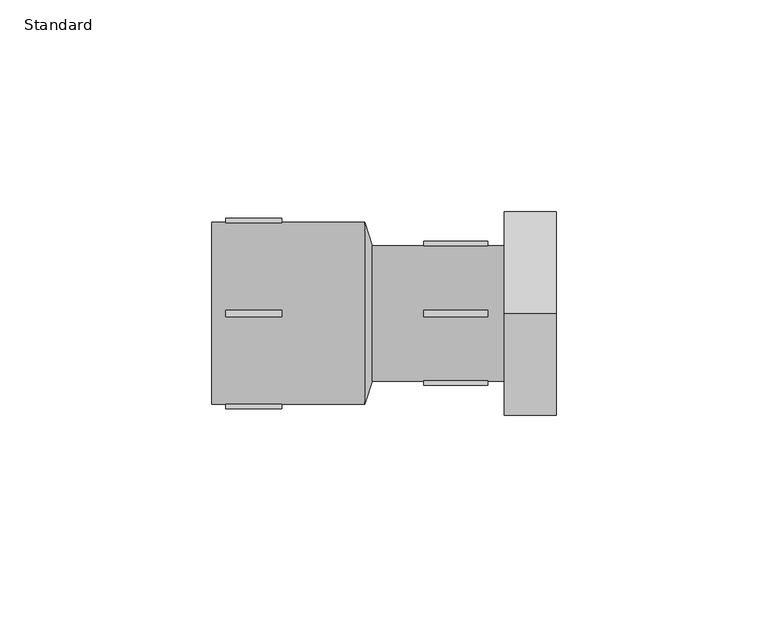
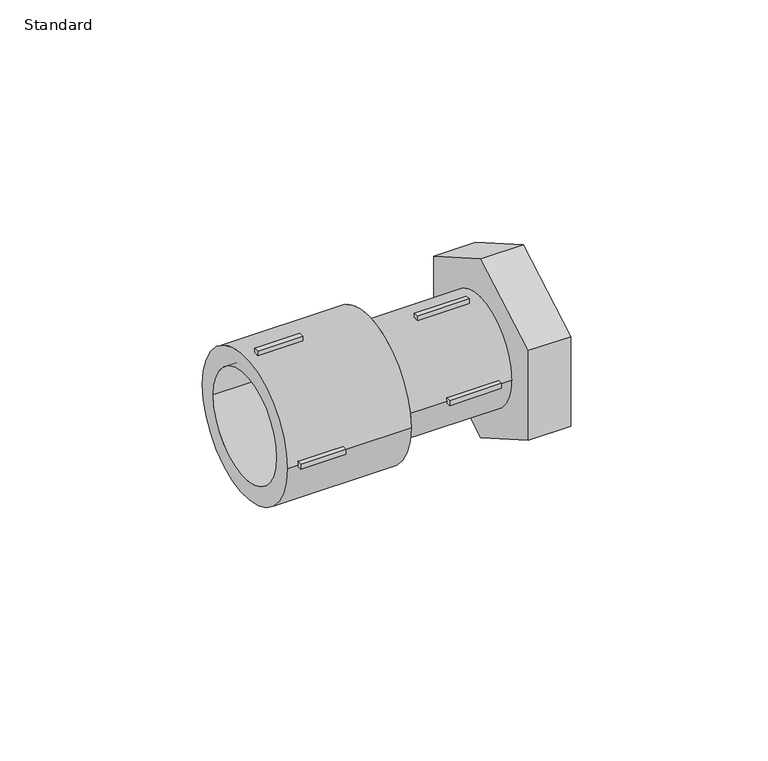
"""IFC4 building model written with IfcOpenShell, lengths in millimetres: pipe fitting geometry, EGB_VASEN_ PPR_Enlace tuerca loca : Standard."""

from ifc_helpers import new_model, si_unit, point, frame, origin, origin_2d, place, context, project, spatial, polyline, circle_curve, trimmed, segment, composite_curve, outline, extrude, source, transform, mapped, element, save
from ifc_brep_helpers import plane_surface, revolved_surface, advanced_brep


def standard_501e44f8(model_context):
    return source(origin(), model_context, "Body", "SolidModel", [
        extrude(outline(polyline([(0.0, 27.7128129), (24.0, 13.8564065), (24.0, -13.8564065), (0.0, -27.7128129), (-24.0, -13.8564065), (-24.0, 13.8564065), (0.0, 27.7128129)]), holes=[composite_curve([segment(trimmed(circle_curve(origin_2d(), 12.7), [point((12.7, 0.0))], [point((-12.7, 0.0))], True, "CARTESIAN"), True, "CONTINUOUS"), segment(trimmed(circle_curve(origin_2d(), 12.7), [point((-12.7, 0.0))], [point((12.7, 0.0))], True, "CARTESIAN"), True, "CONTINUOUS")], self_intersect=False)]), frame((32.0, 0.0, 0.0), z_axis=(1.0, 0.0, 0.0), x_axis=(0.0, 1.0, 0.0)), (0.0, 0.0, 1.0), 12.3333333),
        extrude(outline(polyline([(13.0, -0.75), (13.0, 0.75), (28.2, 0.75), (28.2, -0.75), (13.0, -0.75)])), frame((0.0, 0.0, 15.0), z_axis=(0.0, 0.0, 1.0), x_axis=(1.0, 0.0, 0.0)), (0.0, 0.0, 1.0), 2.0),
        extrude(outline(polyline([(13.0, -0.75), (13.0, 0.75), (28.2, 0.75), (28.2, -0.75), (13.0, -0.75)])), frame((0.0, 0.0, -17.0), z_axis=(0.0, 0.0, 1.0), x_axis=(1.0, 0.0, 0.0)), (0.0, 0.0, 1.0), 2.0),
        extrude(outline(polyline([(13.0, 15.0), (13.0, 17.0), (28.2, 17.0), (28.2, 15.0), (13.0, 15.0)])), frame((0.0, 0.0, -0.75), z_axis=(0.0, 0.0, 1.0), x_axis=(1.0, 0.0, 0.0)), (0.0, 0.0, 1.0), 1.5),
        extrude(outline(polyline([(13.0, -17.0), (13.0, -15.0), (28.2, -15.0), (28.2, -17.0), (13.0, -17.0)])), frame((0.0, 0.0, -0.75), z_axis=(0.0, 0.0, 1.0), x_axis=(1.0, 0.0, 0.0)), (0.0, 0.0, 1.0), 1.5),
        extrude(outline(polyline([(-20.5, 0.75), (-20.5, -0.75), (-33.7, -0.75), (-33.7, 0.75), (-20.5, 0.75)])), frame((0.0, 0.0, 20.5), z_axis=(0.0, 0.0, 1.0), x_axis=(1.0, 0.0, 0.0)), (0.0, 0.0, 1.0), 2.0),
        extrude(outline(polyline([(-20.5, 0.75), (-20.5, -0.75), (-33.7, -0.75), (-33.7, 0.75), (-20.5, 0.75)])), frame((0.0, 0.0, -22.5), z_axis=(0.0, 0.0, 1.0), x_axis=(1.0, 0.0, 0.0)), (0.0, 0.0, 1.0), 2.0),
        extrude(outline(polyline([(-20.5, 22.5), (-20.5, 20.5), (-33.7, 20.5), (-33.7, 22.5), (-20.5, 22.5)])), frame((0.0, 0.0, -0.75), z_axis=(0.0, 0.0, 1.0), x_axis=(1.0, 0.0, 0.0)), (0.0, 0.0, 1.0), 1.5),
        extrude(outline(polyline([(-20.5, -20.5), (-20.5, -22.5), (-33.7, -22.5), (-33.7, -20.5), (-20.5, -20.5)])), frame((0.0, 0.0, -0.75), z_axis=(0.0, 0.0, 1.0), x_axis=(1.0, 0.0, 0.0)), (0.0, 0.0, 1.0), 1.5),
        extrude(outline(composite_curve([segment(trimmed(circle_curve(origin_2d(), 16.0), [point((-16.0, 0.0))], [point((16.0, 0.0))], False, "CARTESIAN"), True, "CONTINUOUS"), segment(trimmed(circle_curve(origin_2d(), 16.0), [point((16.0, 0.0))], [point((-16.0, 0.0))], False, "CARTESIAN"), True, "CONTINUOUS")], self_intersect=False), holes=[composite_curve([segment(trimmed(circle_curve(origin_2d(), 12.0), [point((-12.0, 0.0))], [point((12.0, 0.0))], True, "CARTESIAN"), True, "CONTINUOUS"), segment(trimmed(circle_curve(origin_2d(), 12.0), [point((12.0, 0.0))], [point((-12.0, 0.0))], True, "CARTESIAN"), True, "CONTINUOUS")], self_intersect=False)]), frame((0.844554, 0.0, 0.0), z_axis=(1.0, 0.0, 0.0), x_axis=(0.0, 1.0, 0.0)), (0.0, 0.0, 1.0), 31.155446),
        extrude(outline(composite_curve([segment(trimmed(circle_curve(origin_2d(), 21.5), [point((-21.5, 0.0))], [point((21.5, 0.0))], False, "CARTESIAN"), True, "CONTINUOUS"), segment(trimmed(circle_curve(origin_2d(), 21.5), [point((21.5, 0.0))], [point((-21.5, 0.0))], False, "CARTESIAN"), True, "CONTINUOUS")], self_intersect=False), holes=[composite_curve([segment(trimmed(circle_curve(origin_2d(), 16.0), [point((-16.0, 0.0))], [point((16.0, 0.0))], True, "CARTESIAN"), True, "CONTINUOUS"), segment(trimmed(circle_curve(origin_2d(), 16.0), [point((16.0, 0.0))], [point((-16.0, 0.0))], True, "CARTESIAN"), True, "CONTINUOUS")], self_intersect=False)]), frame((-37.0, 0.0, 0.0), z_axis=(1.0, 0.0, 0.0), x_axis=(0.0, 1.0, 0.0)), (0.0, 0.0, 1.0), 36.155446),
        advanced_brep(
        [(0.844554, -16.0, 0.0), (0.844554, 16.0, 0.0), (-0.844554, -21.5, 0.0), (-0.844554, 21.5, 0.0)],
        [
            (0, 1, circle_curve(frame((0.844554, 0.0, 0.0), z_axis=(1.0, 0.0, 0.0), x_axis=(0.0, -1.0, 0.0)), 16.0)),
            (1, 0, circle_curve(frame((0.844554, 0.0, 0.0), z_axis=(1.0, 0.0, 0.0), x_axis=(0.0, 1.0, 0.0)), 16.0)),
            (2, 3, circle_curve(frame((-0.844554, 0.0, 0.0), z_axis=(-1.0, 0.0, 0.0), x_axis=(0.0, 1.0, 0.0)), 21.5)),
            (3, 2, circle_curve(frame((-0.844554, 0.0, 0.0), z_axis=(-1.0, 0.0, 0.0), x_axis=(0.0, -1.0, 0.0)), 21.5)),
            (3, 1),
            (0, 2),
        ],
        [
            plane_surface(frame((0.844554, 0.0, 0.0), z_axis=(1.0, 0.0, 0.0), x_axis=(0.0, 0.0, -1.0))),
            plane_surface(frame((-0.844554, 0.0, 0.0), z_axis=(-1.0, 0.0, 0.0), x_axis=(0.0, 0.0, -1.0))),
            revolved_surface(polyline([(0.8445540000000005, -16.000000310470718, 0.0), (-0.8445540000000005, -21.5, 0.0)]), (5.7583231, 0.0, 0.0), (-1.0, 0.0, 0.0)),
            revolved_surface(polyline([(0.8445540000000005, 16.000000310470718, 0.0), (-0.8445540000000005, 21.5, 0.0)]), (5.7583231, 0.0, 0.0), (-1.0, 0.0, 0.0)),
        ],
        [
            (0, [[1, 2]]),
            (1, [[3, 4]]),
            (2, [[-4, 5, -1, 6]]),
            (3, [[-3, -6, -2, -5]]),
        ],
    ),
    ])


if __name__ == "__main__":
    model = new_model("IFC4")
    model_context = context("Model", 3, world=origin())
    ifc_project = project(units=[si_unit("LENGTHUNIT", "METRE", prefix="MILLI")], contexts=[model_context])
    site = spatial("IfcSite", under=ifc_project)
    building = spatial("IfcBuilding", under=site)
    placement = place(None, origin())
    standard_shape = standard_501e44f8(model_context)
    element("IfcPipeFitting", 1, ObjectType="EGB_VASEN_ PPR_Enlace tuerca loca : Standard", at=placement, inside=building, context=model_context, shape_type="MappedRepresentation", body=[
        mapped(standard_shape, transform((0.0, 0.0, 0.0), x_axis=(1.0, 0.0, 0.0), y_axis=(0.0, 1.0, 0.0), z_axis=(0.0, 0.0, 1.0))),
    ])
    save(model, "model.ifc")
